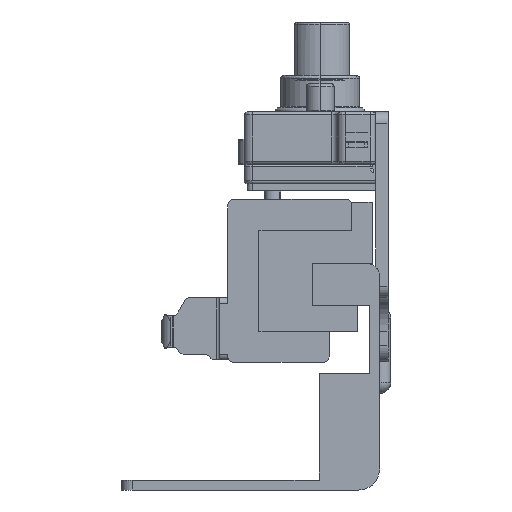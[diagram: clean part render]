
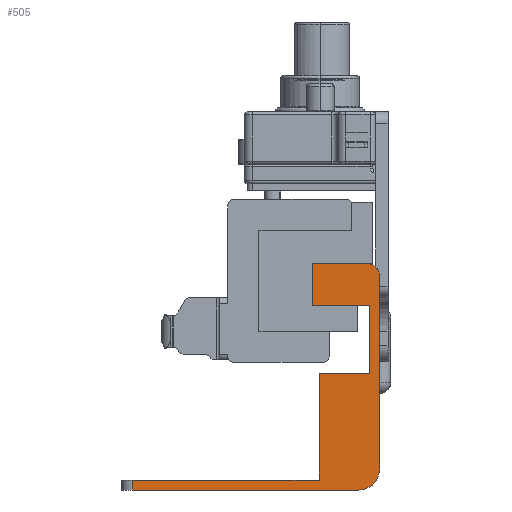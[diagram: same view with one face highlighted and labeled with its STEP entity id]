
A CAD part, left-side view. The second image highlights one B-rep face of the part: STEP entity #505.
In plain terms, the highlighted planar face has unit normal (-1, 0, 0).
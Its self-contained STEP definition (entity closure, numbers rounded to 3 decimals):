
#373 = CARTESIAN_POINT ( 'NONE',  ( -242., 11.167, 21.319 ) ) ;
#466 = DIRECTION ( 'NONE',  ( 1., 0., 0. ) ) ;
#505 = ADVANCED_FACE ( 'NONE', ( #12875 ), #17124, .F. ) ;
#561 = EDGE_CURVE ( 'NONE', #6181, #12106, #11905, .T. ) ;
#1063 = EDGE_CURVE ( 'NONE', #6181, #14276, #4795, .T. ) ;
#1108 = CARTESIAN_POINT ( 'NONE',  ( -242., -31.063, 52.361 ) ) ;
#1252 = DIRECTION ( 'NONE',  ( 0., 0., -1. ) ) ;
#1311 = CARTESIAN_POINT ( 'NONE',  ( -242., -32.833, 23.319 ) ) ;
#1498 = DIRECTION ( 'NONE',  ( -1., 0., 0. ) ) ;
#1554 = DIRECTION ( 'NONE',  ( 0., -1., 0. ) ) ;
#1591 = DIRECTION ( 'NONE',  ( 0., 0., -1. ) ) ;
#1601 = VERTEX_POINT ( 'NONE', #1311 ) ;
#1658 = CIRCLE ( 'NONE', #14078, 2.27 ) ;
#1937 = DIRECTION ( 'NONE',  ( 0., 0., 1. ) ) ;
#2125 = ORIENTED_EDGE ( 'NONE', *, *, #9084, .F. ) ;
#2540 = AXIS2_PLACEMENT_3D ( 'NONE', #10583, #1498, #12104 ) ;
#2579 = LINE ( 'NONE', #17869, #17773 ) ;
#2581 = EDGE_CURVE ( 'NONE', #18771, #15177, #12076, .T. ) ;
#2738 = VECTOR ( 'NONE', #9735, 1000. ) ;
#3108 = CARTESIAN_POINT ( 'NONE',  ( -242., -20.913, 59.849 ) ) ;
#3180 = CARTESIAN_POINT ( 'NONE',  ( -242., 11.167, 58.349 ) ) ;
#3220 = EDGE_CURVE ( 'NONE', #12106, #19197, #2579, .T. ) ;
#3282 = VECTOR ( 'NONE', #19084, 1000. ) ;
#3656 = CARTESIAN_POINT ( 'NONE',  ( -242., 11.167, 19.549 ) ) ;
#3724 = CARTESIAN_POINT ( 'NONE',  ( -242., -30.563, 59.849 ) ) ;
#3725 = LINE ( 'NONE', #12186, #18907 ) ;
#3853 = LINE ( 'NONE', #3180, #7406 ) ;
#3896 = CARTESIAN_POINT ( 'NONE',  ( -242., -32.833, 23.319 ) ) ;
#4226 = EDGE_CURVE ( 'NONE', #1601, #17918, #7311, .T. ) ;
#4396 = LINE ( 'NONE', #13135, #11977 ) ;
#4727 = EDGE_CURVE ( 'NONE', #12217, #1601, #15850, .T. ) ;
#4795 = LINE ( 'NONE', #12633, #12389 ) ;
#5748 = AXIS2_PLACEMENT_3D ( 'NONE', #17192, #466, #1937 ) ;
#6034 = ORIENTED_EDGE ( 'NONE', *, *, #19341, .T. ) ;
#6143 = VERTEX_POINT ( 'NONE', #3656 ) ;
#6164 = VERTEX_POINT ( 'NONE', #3724 ) ;
#6181 = VERTEX_POINT ( 'NONE', #8372 ) ;
#6244 = EDGE_CURVE ( 'NONE', #6143, #12217, #4396, .T. ) ;
#6390 = VERTEX_POINT ( 'NONE', #3108 ) ;
#6578 = EDGE_CURVE ( 'NONE', #6390, #18771, #19345, .T. ) ;
#7023 = CARTESIAN_POINT ( 'NONE',  ( -242., -30.563, 57.579 ) ) ;
#7244 = LINE ( 'NONE', #11244, #2738 ) ;
#7311 = LINE ( 'NONE', #3896, #3282 ) ;
#7406 = VECTOR ( 'NONE', #15333, 1000. ) ;
#7571 = VECTOR ( 'NONE', #15167, 1000. ) ;
#7691 = DIRECTION ( 'NONE',  ( 0., 0., -1. ) ) ;
#7974 = CARTESIAN_POINT ( 'NONE',  ( -242., -32.833, 57.579 ) ) ;
#8100 = ORIENTED_EDGE ( 'NONE', *, *, #6578, .T. ) ;
#8372 = CARTESIAN_POINT ( 'NONE',  ( -242., -22.063, 40.319 ) ) ;
#8541 = DIRECTION ( 'NONE',  ( 0., 0., 1. ) ) ;
#8571 = CARTESIAN_POINT ( 'NONE',  ( -242., -22.063, 40.319 ) ) ;
#9084 = EDGE_CURVE ( 'NONE', #6143, #19197, #3853, .T. ) ;
#9735 = DIRECTION ( 'NONE',  ( 0., 1., 0. ) ) ;
#10282 = EDGE_LOOP ( 'NONE', ( #6034, #8100, #12876, #16990, #11334, #11481, #13034, #2125, #17959, #11368, #14843, #13247 ) ) ;
#10583 = CARTESIAN_POINT ( 'NONE',  ( -242., -29.063, 23.319 ) ) ;
#10636 = CARTESIAN_POINT ( 'NONE',  ( -242., -20.913, 52.361 ) ) ;
#10786 = VECTOR ( 'NONE', #1252, 1000. ) ;
#10952 = CARTESIAN_POINT ( 'NONE',  ( -242., -20.913, 52.361 ) ) ;
#11244 = CARTESIAN_POINT ( 'NONE',  ( -242., -20.413, 59.849 ) ) ;
#11334 = ORIENTED_EDGE ( 'NONE', *, *, #1063, .F. ) ;
#11368 = ORIENTED_EDGE ( 'NONE', *, *, #4727, .T. ) ;
#11481 = ORIENTED_EDGE ( 'NONE', *, *, #561, .T. ) ;
#11657 = DIRECTION ( 'NONE',  ( 0., -1., 0. ) ) ;
#11905 = LINE ( 'NONE', #8571, #16441 ) ;
#11977 = VECTOR ( 'NONE', #11657, 1000. ) ;
#12076 = LINE ( 'NONE', #10636, #7571 ) ;
#12104 = DIRECTION ( 'NONE',  ( 0., 0., -1. ) ) ;
#12106 = VERTEX_POINT ( 'NONE', #14080 ) ;
#12186 = CARTESIAN_POINT ( 'NONE',  ( -242., -31.063, 57.579 ) ) ;
#12217 = VERTEX_POINT ( 'NONE', #15793 ) ;
#12389 = VECTOR ( 'NONE', #1554, 1000. ) ;
#12633 = CARTESIAN_POINT ( 'NONE',  ( -242., -22.063, 40.319 ) ) ;
#12875 = FACE_OUTER_BOUND ( 'NONE', #10282, .T. ) ;
#12876 = ORIENTED_EDGE ( 'NONE', *, *, #2581, .T. ) ;
#13034 = ORIENTED_EDGE ( 'NONE', *, *, #3220, .T. ) ;
#13135 = CARTESIAN_POINT ( 'NONE',  ( -242., 13.167, 19.549 ) ) ;
#13247 = ORIENTED_EDGE ( 'NONE', *, *, #13344, .T. ) ;
#13344 = EDGE_CURVE ( 'NONE', #17918, #6164, #1658, .T. ) ;
#13402 = CARTESIAN_POINT ( 'NONE',  ( -242., -20.913, 59.849 ) ) ;
#14078 = AXIS2_PLACEMENT_3D ( 'NONE', #7023, #17630, #8541 ) ;
#14080 = CARTESIAN_POINT ( 'NONE',  ( -242., -22.063, 21.319 ) ) ;
#14276 = VERTEX_POINT ( 'NONE', #18122 ) ;
#14843 = ORIENTED_EDGE ( 'NONE', *, *, #4226, .T. ) ;
#14903 = EDGE_CURVE ( 'NONE', #15177, #14276, #3725, .T. ) ;
#15167 = DIRECTION ( 'NONE',  ( 0., -1., 0. ) ) ;
#15177 = VERTEX_POINT ( 'NONE', #1108 ) ;
#15333 = DIRECTION ( 'NONE',  ( 0., 0., 1. ) ) ;
#15793 = CARTESIAN_POINT ( 'NONE',  ( -242., -29.063, 19.549 ) ) ;
#15850 = CIRCLE ( 'NONE', #2540, 3.77 ) ;
#16079 = DIRECTION ( 'NONE',  ( 0., 1., 0. ) ) ;
#16441 = VECTOR ( 'NONE', #7691, 1000. ) ;
#16990 = ORIENTED_EDGE ( 'NONE', *, *, #14903, .T. ) ;
#17124 = PLANE ( 'NONE',  #5748 ) ;
#17192 = CARTESIAN_POINT ( 'NONE',  ( -242., -20.413, 58.349 ) ) ;
#17630 = DIRECTION ( 'NONE',  ( -1., 0., 0. ) ) ;
#17773 = VECTOR ( 'NONE', #16079, 1000. ) ;
#17869 = CARTESIAN_POINT ( 'NONE',  ( -242., 10.667, 21.319 ) ) ;
#17918 = VERTEX_POINT ( 'NONE', #7974 ) ;
#17959 = ORIENTED_EDGE ( 'NONE', *, *, #6244, .T. ) ;
#18122 = CARTESIAN_POINT ( 'NONE',  ( -242., -31.063, 40.319 ) ) ;
#18771 = VERTEX_POINT ( 'NONE', #10952 ) ;
#18907 = VECTOR ( 'NONE', #1591, 1000. ) ;
#19084 = DIRECTION ( 'NONE',  ( 0., 0., 1. ) ) ;
#19197 = VERTEX_POINT ( 'NONE', #373 ) ;
#19341 = EDGE_CURVE ( 'NONE', #6164, #6390, #7244, .T. ) ;
#19345 = LINE ( 'NONE', #13402, #10786 ) ;
